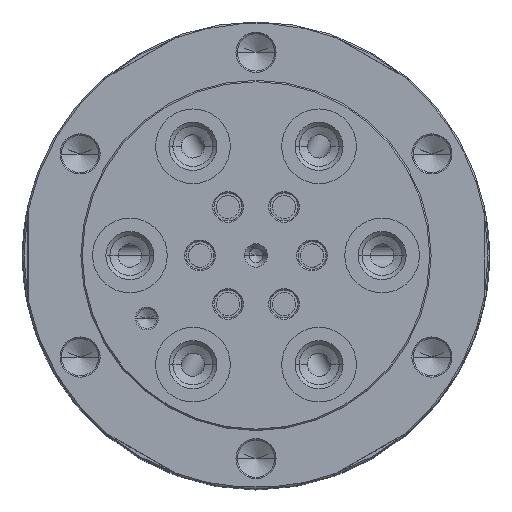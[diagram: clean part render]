
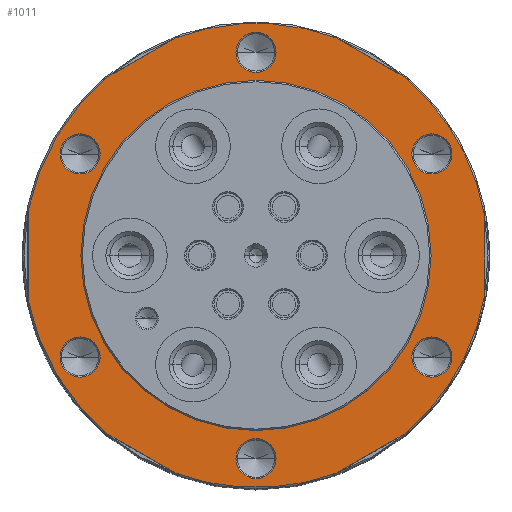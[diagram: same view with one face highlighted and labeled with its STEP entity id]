
A CAD part, top view. The second image highlights one B-rep face of the part: STEP entity #1011.
In plain terms, the highlighted planar face has unit normal (0, 0, 1).
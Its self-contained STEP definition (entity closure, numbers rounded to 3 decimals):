
#1011=ADVANCED_FACE('NO 12286',(#2024,#2025,#2026,#2027,#2028,#2029,#2030,
#2031),#1264,.T.);
#1264=PLANE('',#6216);
#1487=LINE('',#9421,#1835);
#1510=LINE('',#9566,#1858);
#1511=LINE('',#9569,#1859);
#1512=LINE('',#9570,#1860);
#1513=LINE('',#9571,#1861);
#1514=LINE('',#9572,#1862);
#1835=VECTOR('',#7486,1.);
#1858=VECTOR('',#7601,1.);
#1859=VECTOR('',#7604,1.);
#1860=VECTOR('',#7605,1.);
#1861=VECTOR('',#7606,1.);
#1862=VECTOR('',#7607,1.);
#2024=FACE_BOUND('',#2228,.T.);
#2025=FACE_BOUND('',#2229,.T.);
#2026=FACE_BOUND('',#2230,.T.);
#2027=FACE_BOUND('',#2231,.T.);
#2028=FACE_BOUND('',#2232,.T.);
#2029=FACE_BOUND('',#2233,.T.);
#2030=FACE_BOUND('',#2234,.T.);
#2031=FACE_BOUND('',#2235,.T.);
#2228=EDGE_LOOP('',(#3111,#3112));
#2229=EDGE_LOOP('',(#3113,#3114));
#2230=EDGE_LOOP('',(#3115,#3116));
#2231=EDGE_LOOP('',(#3117,#3118));
#2232=EDGE_LOOP('',(#3119,#3120));
#2233=EDGE_LOOP('',(#3121,#3122));
#2234=EDGE_LOOP('',(#3123,#3124));
#2235=EDGE_LOOP('',(#3125,#3126,#3127,#3128,#3129,#3130,#3131,#3132,#3133,
#3134,#3135,#3136));
#3111=ORIENTED_EDGE('',*,*,#5046,.T.);
#3112=ORIENTED_EDGE('',*,*,#5105,.T.);
#3113=ORIENTED_EDGE('',*,*,#5043,.T.);
#3114=ORIENTED_EDGE('',*,*,#5106,.T.);
#3115=ORIENTED_EDGE('',*,*,#5040,.T.);
#3116=ORIENTED_EDGE('',*,*,#5107,.T.);
#3117=ORIENTED_EDGE('',*,*,#5037,.T.);
#3118=ORIENTED_EDGE('',*,*,#5108,.T.);
#3119=ORIENTED_EDGE('',*,*,#5034,.T.);
#3120=ORIENTED_EDGE('',*,*,#5109,.T.);
#3121=ORIENTED_EDGE('',*,*,#5031,.T.);
#3122=ORIENTED_EDGE('',*,*,#5110,.T.);
#3123=ORIENTED_EDGE('',*,*,#5028,.F.);
#3124=ORIENTED_EDGE('',*,*,#5111,.F.);
#3125=ORIENTED_EDGE('',*,*,#5103,.T.);
#3126=ORIENTED_EDGE('',*,*,#5112,.T.);
#3127=ORIENTED_EDGE('',*,*,#5113,.T.);
#3128=ORIENTED_EDGE('',*,*,#5051,.T.);
#3129=ORIENTED_EDGE('',*,*,#5063,.T.);
#3130=ORIENTED_EDGE('',*,*,#5114,.T.);
#3131=ORIENTED_EDGE('',*,*,#5072,.T.);
#3132=ORIENTED_EDGE('',*,*,#5115,.T.);
#3133=ORIENTED_EDGE('',*,*,#5082,.T.);
#3134=ORIENTED_EDGE('',*,*,#5116,.T.);
#3135=ORIENTED_EDGE('',*,*,#5093,.T.);
#3136=ORIENTED_EDGE('',*,*,#5117,.T.);
#4426=VERTEX_POINT('',#9367);
#4427=VERTEX_POINT('',#9369);
#4428=VERTEX_POINT('',#9373);
#4429=VERTEX_POINT('',#9375);
#4430=VERTEX_POINT('',#9379);
#4431=VERTEX_POINT('',#9381);
#4432=VERTEX_POINT('',#9385);
#4433=VERTEX_POINT('',#9387);
#4434=VERTEX_POINT('',#9391);
#4435=VERTEX_POINT('',#9393);
#4436=VERTEX_POINT('',#9397);
#4437=VERTEX_POINT('',#9399);
#4438=VERTEX_POINT('',#9403);
#4439=VERTEX_POINT('',#9405);
#4440=VERTEX_POINT('',#9412);
#4443=VERTEX_POINT('',#9420);
#4450=VERTEX_POINT('',#9446);
#4457=VERTEX_POINT('',#9468);
#4458=VERTEX_POINT('',#9470);
#4465=VERTEX_POINT('',#9495);
#4466=VERTEX_POINT('',#9497);
#4474=VERTEX_POINT('',#9524);
#4475=VERTEX_POINT('',#9526);
#4482=VERTEX_POINT('',#9551);
#4483=VERTEX_POINT('',#9553);
#4484=VERTEX_POINT('',#9567);
#5028=EDGE_CURVE('NO 11735',#4426,#4427,#5629,.T.);
#5031=EDGE_CURVE('NO 11757',#4429,#4428,#5630,.T.);
#5034=EDGE_CURVE('NO 11779',#4431,#4430,#5631,.T.);
#5037=EDGE_CURVE('NO 11801',#4433,#4432,#5632,.T.);
#5040=EDGE_CURVE('NO 11823',#4435,#4434,#5633,.T.);
#5043=EDGE_CURVE('NO 11845',#4437,#4436,#5634,.T.);
#5046=EDGE_CURVE('NO 11867',#4439,#4438,#5635,.T.);
#5051=EDGE_CURVE('NO 11900',#4440,#4443,#1487,.T.);
#5063=EDGE_CURVE('NO 11988',#4443,#4450,#5640,.T.);
#5072=EDGE_CURVE('NO 12058',#4458,#4457,#5644,.T.);
#5082=EDGE_CURVE('NO 12130',#4466,#4465,#5648,.T.);
#5093=EDGE_CURVE('NO 12208',#4475,#4474,#5653,.T.);
#5103=EDGE_CURVE('NO 12280',#4483,#4482,#5657,.T.);
#5105=EDGE_CURVE('NO 12293',#4438,#4439,#5658,.T.);
#5106=EDGE_CURVE('NO 12300',#4436,#4437,#5659,.T.);
#5107=EDGE_CURVE('NO 12307',#4434,#4435,#5660,.T.);
#5108=EDGE_CURVE('NO 12314',#4432,#4433,#5661,.T.);
#5109=EDGE_CURVE('NO 12321',#4430,#4431,#5662,.T.);
#5110=EDGE_CURVE('NO 12328',#4428,#4429,#5663,.T.);
#5111=EDGE_CURVE('NO 12335',#4427,#4426,#5664,.T.);
#5112=EDGE_CURVE('NO 12344',#4482,#4484,#1510,.T.);
#5113=EDGE_CURVE('NO 12348',#4484,#4440,#5665,.T.);
#5114=EDGE_CURVE('NO 12356',#4450,#4458,#1511,.T.);
#5115=EDGE_CURVE('NO 12362',#4457,#4466,#1512,.T.);
#5116=EDGE_CURVE('NO 12368',#4465,#4475,#1513,.T.);
#5117=EDGE_CURVE('NO 12374',#4474,#4483,#1514,.T.);
#5629=CIRCLE('',#6155,37.5);
#5630=CIRCLE('',#6157,4.3);
#5631=CIRCLE('',#6159,4.3);
#5632=CIRCLE('',#6161,4.3);
#5633=CIRCLE('',#6163,4.3);
#5634=CIRCLE('',#6165,4.3);
#5635=CIRCLE('',#6167,4.3);
#5640=CIRCLE('',#6177,49.7);
#5644=CIRCLE('',#6184,49.7);
#5648=CIRCLE('',#6191,49.7);
#5653=CIRCLE('',#6199,49.7);
#5657=CIRCLE('',#6206,49.7);
#5658=CIRCLE('',#6208,4.3);
#5659=CIRCLE('',#6209,4.3);
#5660=CIRCLE('',#6210,4.3);
#5661=CIRCLE('',#6211,4.3);
#5662=CIRCLE('',#6212,4.3);
#5663=CIRCLE('',#6213,4.3);
#5664=CIRCLE('',#6214,37.5);
#5665=CIRCLE('',#6215,49.7);
#6155=AXIS2_PLACEMENT_3D('',#9368,#7444,#7445);
#6157=AXIS2_PLACEMENT_3D('',#9374,#7450,#7451);
#6159=AXIS2_PLACEMENT_3D('',#9380,#7456,#7457);
#6161=AXIS2_PLACEMENT_3D('',#9386,#7462,#7463);
#6163=AXIS2_PLACEMENT_3D('',#9392,#7468,#7469);
#6165=AXIS2_PLACEMENT_3D('',#9398,#7474,#7475);
#6167=AXIS2_PLACEMENT_3D('',#9404,#7480,#7481);
#6177=AXIS2_PLACEMENT_3D('',#9447,#7509,#7510);
#6184=AXIS2_PLACEMENT_3D('',#9469,#7527,#7528);
#6191=AXIS2_PLACEMENT_3D('',#9496,#7545,#7546);
#6199=AXIS2_PLACEMENT_3D('',#9525,#7565,#7566);
#6206=AXIS2_PLACEMENT_3D('',#9552,#7583,#7584);
#6208=AXIS2_PLACEMENT_3D('',#9559,#7587,#7588);
#6209=AXIS2_PLACEMENT_3D('',#9560,#7589,#7590);
#6210=AXIS2_PLACEMENT_3D('',#9561,#7591,#7592);
#6211=AXIS2_PLACEMENT_3D('',#9562,#7593,#7594);
#6212=AXIS2_PLACEMENT_3D('',#9563,#7595,#7596);
#6213=AXIS2_PLACEMENT_3D('',#9564,#7597,#7598);
#6214=AXIS2_PLACEMENT_3D('',#9565,#7599,#7600);
#6215=AXIS2_PLACEMENT_3D('',#9568,#7602,#7603);
#6216=AXIS2_PLACEMENT_3D('',#9573,#7608,#7609);
#7444=DIRECTION('',(0.,0.,1.));
#7445=DIRECTION('',(-1.,0.,0.));
#7450=DIRECTION('',(0.,0.,-1.));
#7451=DIRECTION('',(-1.,0.,0.));
#7456=DIRECTION('',(0.,0.,-1.));
#7457=DIRECTION('',(-1.,0.,0.));
#7462=DIRECTION('',(0.,0.,-1.));
#7463=DIRECTION('',(-1.,0.,0.));
#7468=DIRECTION('',(0.,0.,-1.));
#7469=DIRECTION('',(-1.,0.,0.));
#7474=DIRECTION('',(0.,0.,-1.));
#7475=DIRECTION('',(-1.,0.,0.));
#7480=DIRECTION('',(0.,0.,-1.));
#7481=DIRECTION('',(-1.,0.,0.));
#7486=DIRECTION('',(0.,-1.,0.));
#7509=DIRECTION('',(0.,0.,1.));
#7510=DIRECTION('',(-1.,0.,0.));
#7527=DIRECTION('',(0.,0.,1.));
#7528=DIRECTION('',(-1.,0.,0.));
#7545=DIRECTION('',(0.,0.,1.));
#7546=DIRECTION('',(-1.,0.,0.));
#7565=DIRECTION('',(0.,0.,1.));
#7566=DIRECTION('',(-1.,0.,0.));
#7583=DIRECTION('',(0.,0.,1.));
#7584=DIRECTION('',(-1.,0.,0.));
#7587=DIRECTION('',(0.,0.,-1.));
#7588=DIRECTION('',(-1.,0.,0.));
#7589=DIRECTION('',(0.,0.,-1.));
#7590=DIRECTION('',(-1.,0.,0.));
#7591=DIRECTION('',(0.,0.,-1.));
#7592=DIRECTION('',(-1.,0.,0.));
#7593=DIRECTION('',(0.,0.,-1.));
#7594=DIRECTION('',(-1.,0.,0.));
#7595=DIRECTION('',(0.,0.,-1.));
#7596=DIRECTION('',(-1.,0.,0.));
#7597=DIRECTION('',(0.,0.,-1.));
#7598=DIRECTION('',(-1.,0.,0.));
#7599=DIRECTION('',(0.,0.,1.));
#7600=DIRECTION('',(-1.,0.,0.));
#7601=DIRECTION('',(-0.866,-0.5,0.));
#7602=DIRECTION('',(0.,0.,1.));
#7603=DIRECTION('',(-1.,0.,0.));
#7604=DIRECTION('',(0.866,-0.5,0.));
#7605=DIRECTION('',(0.866,0.5,0.));
#7606=DIRECTION('',(0.,1.,0.));
#7607=DIRECTION('',(-0.866,0.5,0.));
#7608=DIRECTION('',(0.,0.,1.));
#7609=DIRECTION('',(1.,0.,0.));
#9367=CARTESIAN_POINT('',(37.5,0.,128.));
#9368=CARTESIAN_POINT('',(0.,0.,128.));
#9369=CARTESIAN_POINT('',(-37.5,0.,128.));
#9373=CARTESIAN_POINT('',(4.3,-43.5,128.));
#9374=CARTESIAN_POINT('',(0.,-43.5,128.));
#9375=CARTESIAN_POINT('',(-4.3,-43.5,128.));
#9379=CARTESIAN_POINT('',(41.972,-21.75,128.));
#9380=CARTESIAN_POINT('',(37.672,-21.75,128.));
#9381=CARTESIAN_POINT('',(33.372,-21.75,128.));
#9385=CARTESIAN_POINT('',(41.972,21.75,128.));
#9386=CARTESIAN_POINT('',(37.672,21.75,128.));
#9387=CARTESIAN_POINT('',(33.372,21.75,128.));
#9391=CARTESIAN_POINT('',(4.3,43.5,128.));
#9392=CARTESIAN_POINT('',(0.,43.5,128.));
#9393=CARTESIAN_POINT('',(-4.3,43.5,128.));
#9397=CARTESIAN_POINT('',(-33.372,21.75,128.));
#9398=CARTESIAN_POINT('',(-37.672,21.75,128.));
#9399=CARTESIAN_POINT('',(-41.972,21.75,128.));
#9403=CARTESIAN_POINT('',(-33.372,-21.75,128.));
#9404=CARTESIAN_POINT('',(-37.672,-21.75,128.));
#9405=CARTESIAN_POINT('',(-41.972,-21.75,128.));
#9412=CARTESIAN_POINT('',(-48.7,9.92,128.));
#9420=CARTESIAN_POINT('',(-48.7,-9.92,128.));
#9421=CARTESIAN_POINT('',(-48.7,0.,128.));
#9446=CARTESIAN_POINT('',(-31.698,-38.279,128.));
#9447=CARTESIAN_POINT('',(0.,0.,128.));
#9468=CARTESIAN_POINT('',(17.302,-46.591,128.));
#9469=CARTESIAN_POINT('',(0.,0.,128.));
#9470=CARTESIAN_POINT('',(-17.302,-46.591,128.));
#9495=CARTESIAN_POINT('',(49.,-8.312,128.));
#9496=CARTESIAN_POINT('',(0.,0.,128.));
#9497=CARTESIAN_POINT('',(31.698,-38.279,128.));
#9524=CARTESIAN_POINT('',(31.698,38.279,128.));
#9525=CARTESIAN_POINT('',(0.,0.,128.));
#9526=CARTESIAN_POINT('',(49.,8.312,128.));
#9551=CARTESIAN_POINT('',(-17.302,46.591,128.));
#9552=CARTESIAN_POINT('',(0.,0.,128.));
#9553=CARTESIAN_POINT('',(17.302,46.591,128.));
#9559=CARTESIAN_POINT('',(-37.672,-21.75,128.));
#9560=CARTESIAN_POINT('',(-37.672,21.75,128.));
#9561=CARTESIAN_POINT('',(0.,43.5,128.));
#9562=CARTESIAN_POINT('',(37.672,21.75,128.));
#9563=CARTESIAN_POINT('',(37.672,-21.75,128.));
#9564=CARTESIAN_POINT('',(0.,-43.5,128.));
#9565=CARTESIAN_POINT('',(0.,0.,128.));
#9566=CARTESIAN_POINT('',(-24.5,42.435,128.));
#9567=CARTESIAN_POINT('',(-31.698,38.279,128.));
#9568=CARTESIAN_POINT('',(0.,0.,128.));
#9569=CARTESIAN_POINT('',(-24.5,-42.435,128.));
#9570=CARTESIAN_POINT('',(24.5,-42.435,128.));
#9571=CARTESIAN_POINT('',(49.,0.,128.));
#9572=CARTESIAN_POINT('',(24.5,42.435,128.));
#9573=CARTESIAN_POINT('',(0.,0.,128.));
